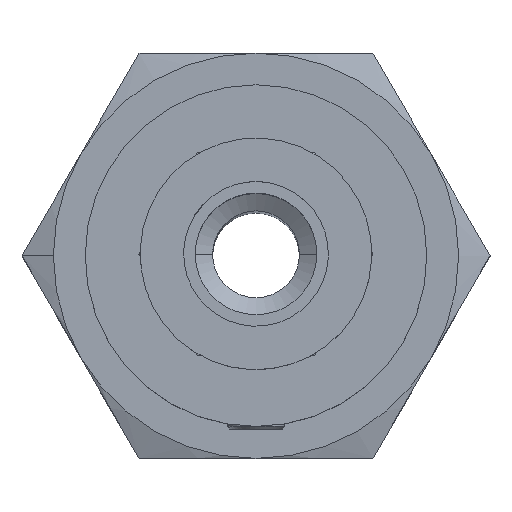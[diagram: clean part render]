
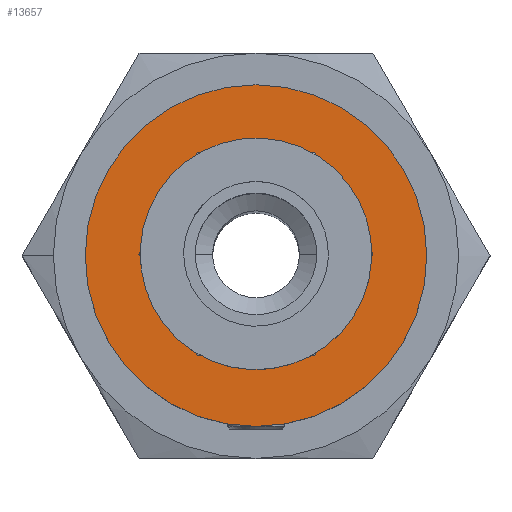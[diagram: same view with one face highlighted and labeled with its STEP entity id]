
A CAD part, top view. The second image highlights one B-rep face of the part: STEP entity #13657.
In plain terms, the highlighted planar face has unit normal (0, 0, 1) as drawn and (0, 0, -1) by its records, which use the part's own axes.
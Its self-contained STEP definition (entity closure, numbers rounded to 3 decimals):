
#797 = AXIS2_PLACEMENT_3D ( 'NONE', #1298, #8939, #2414 ) ;
#1298 = CARTESIAN_POINT ( 'NONE',  ( 0., 0., 0. ) ) ;
#1527 = CARTESIAN_POINT ( 'NONE',  ( 0., 0., 0. ) ) ;
#1569 = CIRCLE ( 'NONE', #6181, 3.2 ) ;
#1921 = FACE_OUTER_BOUND ( 'NONE', #3240, .T. ) ;
#2322 = CIRCLE ( 'NONE', #13720, 3.2 ) ;
#2414 = DIRECTION ( 'NONE',  ( 1., 0., 0. ) ) ;
#2477 = CARTESIAN_POINT ( 'NONE',  ( 3.2, 0., 0. ) ) ;
#2645 = PLANE ( 'NONE',  #5455 ) ;
#2648 = DIRECTION ( 'NONE',  ( 1., 0., 0. ) ) ;
#3240 = EDGE_LOOP ( 'NONE', ( #5818, #7544 ) ) ;
#3621 = ORIENTED_EDGE ( 'NONE', *, *, #10188, .T. ) ;
#3994 = CARTESIAN_POINT ( 'NONE',  ( -3.2, 0., 0. ) ) ;
#4179 = EDGE_LOOP ( 'NONE', ( #3621, #4636 ) ) ;
#4636 = ORIENTED_EDGE ( 'NONE', *, *, #13692, .T. ) ;
#4829 = DIRECTION ( 'NONE',  ( 1., 0., 0. ) ) ;
#4876 = DIRECTION ( 'NONE',  ( 0., 0., 1. ) ) ;
#5440 = DIRECTION ( 'NONE',  ( 0., 0., 1. ) ) ;
#5455 = AXIS2_PLACEMENT_3D ( 'NONE', #10269, #11395, #4829 ) ;
#5818 = ORIENTED_EDGE ( 'NONE', *, *, #13966, .F. ) ;
#6181 = AXIS2_PLACEMENT_3D ( 'NONE', #11439, #4876, #12561 ) ;
#7378 = FACE_BOUND ( 'NONE', #4179, .T. ) ;
#7544 = ORIENTED_EDGE ( 'NONE', *, *, #14168, .F. ) ;
#7603 = CARTESIAN_POINT ( 'NONE',  ( 5.9, 0., 0. ) ) ;
#8260 = CARTESIAN_POINT ( 'NONE',  ( -5.9, 0., 0. ) ) ;
#8323 = VERTEX_POINT ( 'NONE', #2477 ) ;
#8523 = VERTEX_POINT ( 'NONE', #7603 ) ;
#8923 = VERTEX_POINT ( 'NONE', #8260 ) ;
#8939 = DIRECTION ( 'NONE',  ( 0., 0., 1. ) ) ;
#9060 = CIRCLE ( 'NONE', #10323, 5.9 ) ;
#9169 = DIRECTION ( 'NONE',  ( 0., 0., 1. ) ) ;
#9769 = CIRCLE ( 'NONE', #797, 5.9 ) ;
#10188 = EDGE_CURVE ( 'NONE', #13027, #8323, #2322, .T. ) ;
#10269 = CARTESIAN_POINT ( 'NONE',  ( 0., 0., 0. ) ) ;
#10323 = AXIS2_PLACEMENT_3D ( 'NONE', #1527, #9169, #2648 ) ;
#11395 = DIRECTION ( 'NONE',  ( 0., 0., 1. ) ) ;
#11439 = CARTESIAN_POINT ( 'NONE',  ( 0., 0., 0. ) ) ;
#12039 = CARTESIAN_POINT ( 'NONE',  ( 0., 0., 0. ) ) ;
#12561 = DIRECTION ( 'NONE',  ( 1., 0., 0. ) ) ;
#13027 = VERTEX_POINT ( 'NONE', #3994 ) ;
#13178 = DIRECTION ( 'NONE',  ( 1., 0., 0. ) ) ;
#13657 = ADVANCED_FACE ( 'NONE', ( #7378, #1921 ), #2645, .F. ) ;
#13692 = EDGE_CURVE ( 'NONE', #8323, #13027, #1569, .T. ) ;
#13720 = AXIS2_PLACEMENT_3D ( 'NONE', #12039, #5440, #13178 ) ;
#13966 = EDGE_CURVE ( 'NONE', #8923, #8523, #9769, .T. ) ;
#14168 = EDGE_CURVE ( 'NONE', #8523, #8923, #9060, .T. ) ;
